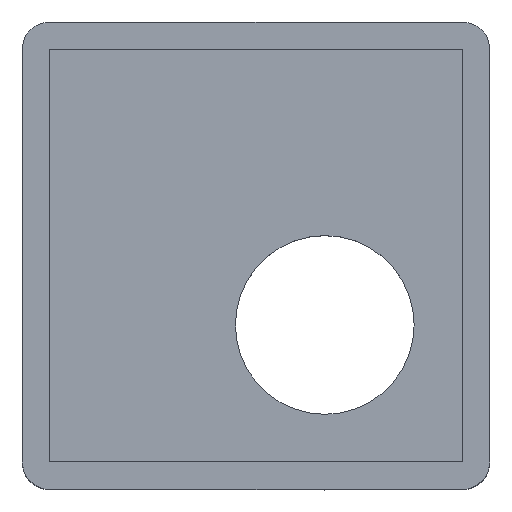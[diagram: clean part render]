
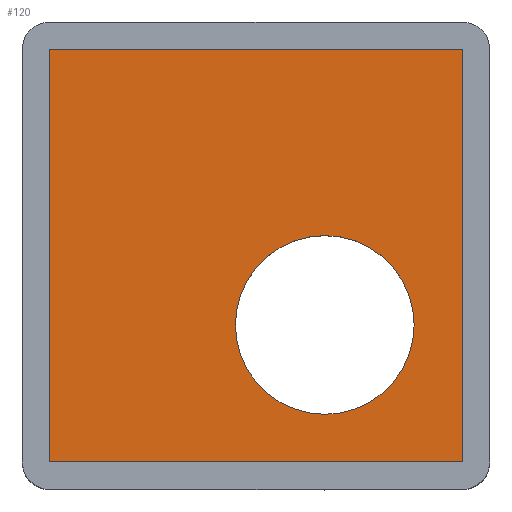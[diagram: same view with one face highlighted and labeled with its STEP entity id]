
A CAD part, top view. The second image highlights one B-rep face of the part: STEP entity #120.
In plain terms, the highlighted planar face has unit normal (0, 0, 1).
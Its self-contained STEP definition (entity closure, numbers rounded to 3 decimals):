
#120=ADVANCED_FACE('',(#225,#226),#227,.T.);
#225=FACE_BOUND('',#331,.T.);
#226=FACE_OUTER_BOUND('',#332,.T.);
#227=PLANE('',#333);
#331=EDGE_LOOP('',(#465));
#332=EDGE_LOOP('',(#466,#467,#468,#469));
#333=AXIS2_PLACEMENT_3D('',#470,#471,#472);
#465=ORIENTED_EDGE('',*,*,#656,.F.);
#466=ORIENTED_EDGE('',*,*,#657,.T.);
#467=ORIENTED_EDGE('',*,*,#652,.T.);
#468=ORIENTED_EDGE('',*,*,#621,.T.);
#469=ORIENTED_EDGE('',*,*,#640,.T.);
#470=CARTESIAN_POINT('',(-9.0,-14.556,2.0));
#471=DIRECTION('',(0.0,0.0,1.0));
#472=DIRECTION('',(1.0,0.0,0.0));
#621=EDGE_CURVE('',#706,#707,#708,.T.);
#640=EDGE_CURVE('',#707,#737,#738,.T.);
#652=EDGE_CURVE('',#757,#706,#758,.T.);
#656=EDGE_CURVE('',#763,#763,#764,.T.);
#657=EDGE_CURVE('',#737,#757,#765,.T.);
#706=VERTEX_POINT('',#822);
#707=VERTEX_POINT('',#823);
#708=LINE('',#824,#825);
#737=VERTEX_POINT('',#863);
#738=LINE('',#864,#865);
#757=VERTEX_POINT('',#888);
#758=LINE('',#889,#890);
#763=VERTEX_POINT('',#897);
#764=CIRCLE('',#898,6.5);
#765=LINE('',#899,#900);
#822=CARTESIAN_POINT('',(23.0,-12.556,2.0));
#823=CARTESIAN_POINT('',(23.0,17.444,2.0));
#824=CARTESIAN_POINT('',(23.0,-14.556,2.0));
#825=VECTOR('',#971,1.0);
#863=CARTESIAN_POINT('',(-7.0,17.444,2.0));
#864=CARTESIAN_POINT('',(25.0,17.444,2.0));
#865=VECTOR('',#996,1.0);
#888=CARTESIAN_POINT('',(-7.0,-12.556,2.0));
#889=CARTESIAN_POINT('',(-9.0,-12.556,2.0));
#890=VECTOR('',#1013,1.0);
#897=CARTESIAN_POINT('',(19.5,-2.556,2.));
#898=AXIS2_PLACEMENT_3D('',#1016,#1017,#1018);
#899=CARTESIAN_POINT('',(-7.0,19.444,2.0));
#900=VECTOR('',#1019,1.0);
#971=DIRECTION('',(0.0,1.0,0.0));
#996=DIRECTION('',(-1.0,0.0,0.0));
#1013=DIRECTION('',(1.0,0.0,0.0));
#1016=CARTESIAN_POINT('',(13.0,-2.556,2.));
#1017=DIRECTION('',(0.0,0.0,1.0));
#1018=DIRECTION('',(1.0,0.0,0.0));
#1019=DIRECTION('',(0.0,-1.0,0.0));
